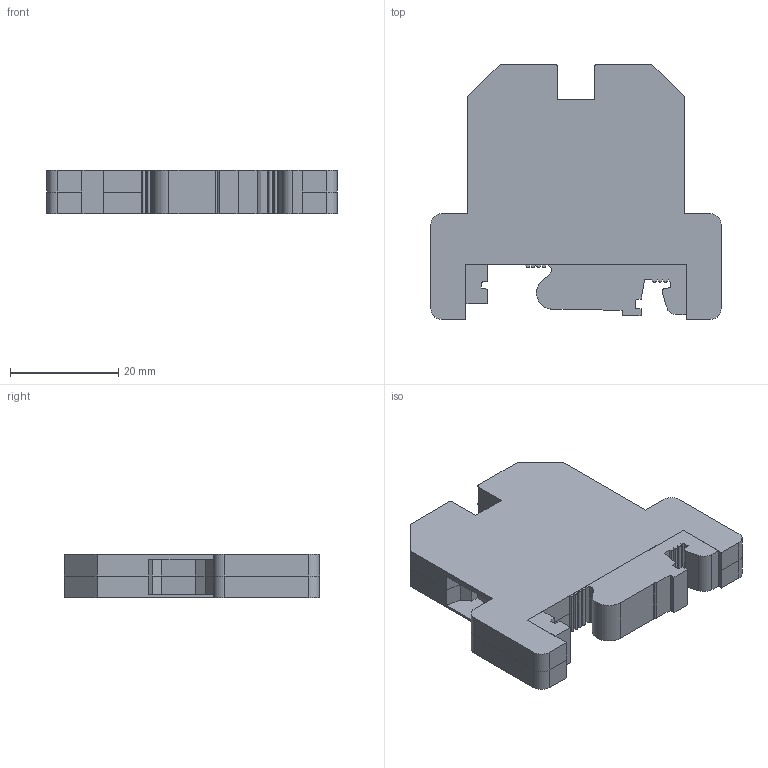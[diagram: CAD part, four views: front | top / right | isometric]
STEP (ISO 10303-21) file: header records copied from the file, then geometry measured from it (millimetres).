
FILE_DESCRIPTION(('Open CASCADE Model'),'2;1');
FILE_NAME('Open CASCADE Shape Model','2023-04-24T09:26:18',('Author'),( 'Open CASCADE'),'Open CASCADE STEP processor 6.5','Open CASCADE 6.5' ,'Unknown');
FILE_SCHEMA(('AUTOMOTIVE_DESIGN { 1 0 10303 214 1 1 1 1 }'));
Length unit declared in the file: millimetre
Products named in the file (178): CADSOFTTOOLS 1; CADSOFTTOOLS 1.1; CADSOFTTOOLS 1.2; CADSOFTTOOLS 1.3; CADSOFTTOOLS 1.4; CADSOFTTOOLS 1.5; CADSOFTTOOLS 1.6; CADSOFTTOOLS 1.7; CADSOFTTOOLS 1.8; CADSOFTTOOLS 1.9; CADSOFTTOOLS 1.10; CADSOFTTOOLS 1.11; CADSOFTTOOLS 1.12; CADSOFTTOOLS 1.13; CADSOFTTOOLS 1.14; CADSOFTTOOLS 1.15; CADSOFTTOOLS 1.16; CADSOFTTOOLS 1.17; CADSOFTTOOLS 1.18; CADSOFTTOOLS 1.19; CADSOFTTOOLS 1.20; CADSOFTTOOLS 1.21; CADSOFTTOOLS 1.22; CADSOFTTOOLS 1.23; CADSOFTTOOLS 1.24; CADSOFTTOOLS 1.25; CADSOFTTOOLS 1.26; CADSOFTTOOLS 1.27; CADSOFTTOOLS 1.28; CADSOFTTOOLS 1.29; CADSOFTTOOLS 1.30; CADSOFTTOOLS 1.31; CADSOFTTOOLS 1.32; CADSOFTTOOLS 1.33; CADSOFTTOOLS 1.34; CADSOFTTOOLS 1.35; CADSOFTTOOLS 1.36; CADSOFTTOOLS 1.37; CADSOFTTOOLS 1.38; CADSOFTTOOLS 1.39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
Assembly tree (177 placements, depth 2):
  CADSOFTTOOLS 1
    CADSOFTTOOLS 1.1
    CADSOFTTOOLS 1.2
    CADSOFTTOOLS 1.3
    CADSOFTTOOLS 1.4
    CADSOFTTOOLS 1.5
    CADSOFTTOOLS 1.6
    CADSOFTTOOLS 1.7
    CADSOFTTOOLS 1.8
    CADSOFTTOOLS 1.9
    CADSOFTTOOLS 1.10
    CADSOFTTOOLS 1.11
    CADSOFTTOOLS 1.12
    CADSOFTTOOLS 1.13
    CADSOFTTOOLS 1.14
    CADSOFTTOOLS 1.15
    CADSOFTTOOLS 1.16
    CADSOFTTOOLS 1.17
    CADSOFTTOOLS 1.18
    CADSOFTTOOLS 1.19
    CADSOFTTOOLS 1.20
    CADSOFTTOOLS 1.21
    CADSOFTTOOLS 1.22
    CADSOFTTOOLS 1.23
    CADSOFTTOOLS 1.24
    CADSOFTTOOLS 1.25
    CADSOFTTOOLS 1.26
    CADSOFTTOOLS 1.27
    CADSOFTTOOLS 1.28
    CADSOFTTOOLS 1.29
    CADSOFTTOOLS 1.30
    CADSOFTTOOLS 1.31
    CADSOFTTOOLS 1.32
    CADSOFTTOOLS 1.33
    CADSOFTTOOLS 1.34
    CADSOFTTOOLS 1.35
    CADSOFTTOOLS 1.36
    CADSOFTTOOLS 1.37
    CADSOFTTOOLS 1.38
    CADSOFTTOOLS 1.39
    CADSOFTTOOLS 1.40
    CADSOFTTOOLS 1.41
    CADSOFTTOOLS 1.42
    CADSOFTTOOLS 1.43
    CADSOFTTOOLS 1.44
    CADSOFTTOOLS 1.45
    CADSOFTTOOLS 1.46
    CADSOFTTOOLS 1.47
    CADSOFTTOOLS 1.48
    CADSOFTTOOLS 1.49
    CADSOFTTOOLS 1.50
    CADSOFTTOOLS 1.51
    CADSOFTTOOLS 1.52
    CADSOFTTOOLS 1.53
    CADSOFTTOOLS 1.54
    CADSOFTTOOLS 1.55
    CADSOFTTOOLS 1.56
    CADSOFTTOOLS 1.57
    CADSOFTTOOLS 1.58
    CADSOFTTOOLS 1.59
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Bounding box: 53.5 x 47.04 x 8 mm (x, y, z)
Surface area: 10090.1 mm2 (no closed solid volume)
Topology: 0 solids, 177 shells, 177 faces, 966 edges, 966 vertices
Faces by surface type: plane 146, cylinder 31
Entity records: 19898 total; most frequent: CARTESIAN_POINT 3927, DIRECTION 2604, LINE 1622, VECTOR 1622, ORIENTED_EDGE 966, EDGE_CURVE 966, VERTEX_POINT 966, SURFACE_CURVE 966
